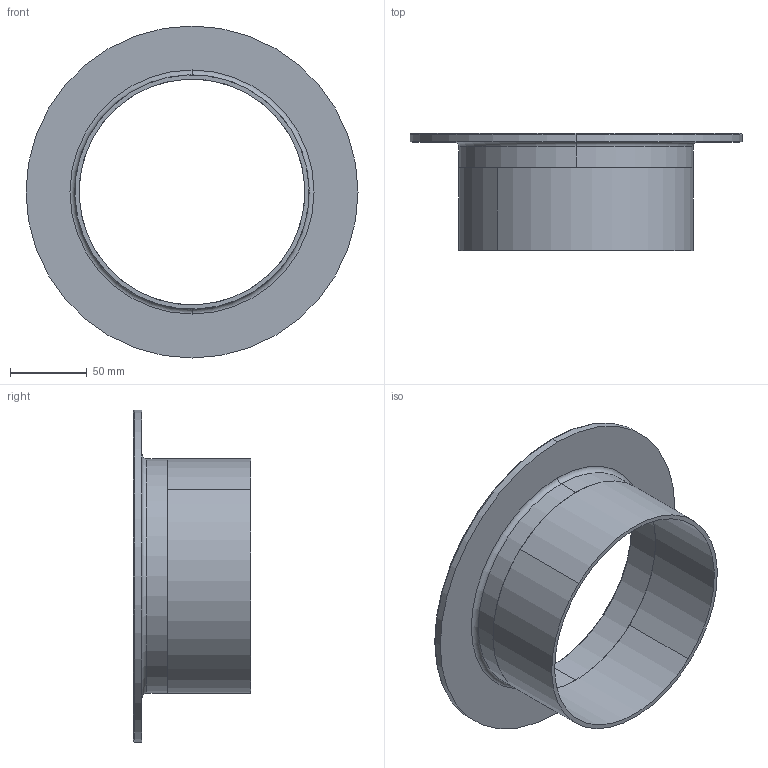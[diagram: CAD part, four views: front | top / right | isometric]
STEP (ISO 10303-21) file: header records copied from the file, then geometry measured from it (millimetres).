
FILE_DESCRIPTION (( 'STEP AP203' ), '1' );
FILE_NAME ('E14WA6.0.STEP', '2018-05-04T18:25:48', ( 'vneprd' ), ( 'Microsoft' ), 'SwSTEP 2.0', 'SolidWorks 2014', '' );
FILE_SCHEMA (( 'CONFIG_CONTROL_DESIGN' ));
Length unit declared in the file: inch
Products named in the file (3): V14WAB6.0; E14WA6.0; TUBE6.0x2.125
Assembly tree (2 placements, depth 2):
  E14WA6.0
    V14WAB6.0
    TUBE6.0x2.125
Bounding box: 215.9 x 76.2 x 215.9 mm (x, y, z)
Volume: 194258.3 mm3; surface area: 132978.9 mm2
Topology: 2 solids, 2 shells, 167 faces, 334 edges, 172 vertices
Faces by surface type: cone 150, cylinder 10, plane 5, torus 2
Entity records: 4525 total; most frequent: DIRECTION 852, CARTESIAN_POINT 678, ORIENTED_EDGE 668, AXIS2_PLACEMENT_3D 346, EDGE_CURVE 334, CIRCLE 174, VERTEX_POINT 172, EDGE_LOOP 172
